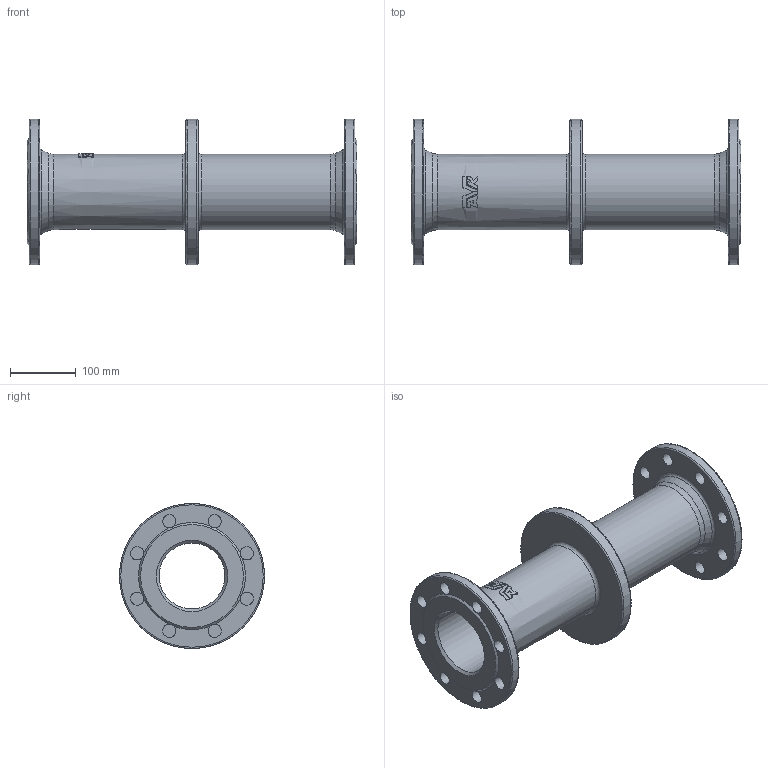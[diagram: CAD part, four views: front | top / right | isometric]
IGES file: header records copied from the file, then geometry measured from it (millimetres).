
Start section: SolidWorks IGES file using analytic representation for surfaces
Global section: file name: \\avksan2\techshare\PBM outline export from Enovia\O_712_6010_DN100_1_AA0.igs; native system: SolidWorks 2012; preprocessor: SolidWorks 2012; author: pbm; date: 190709.112958; units: millimetre
Bounding box: 500 x 220 x 220 mm (x, y, z)
Surface area: 519308.9 mm2 (no closed solid volume)
Topology: 0 solids, 0 shells, 90 faces, 546 edges, 496 vertices
Faces by surface type: revolution 45, bspline 45
